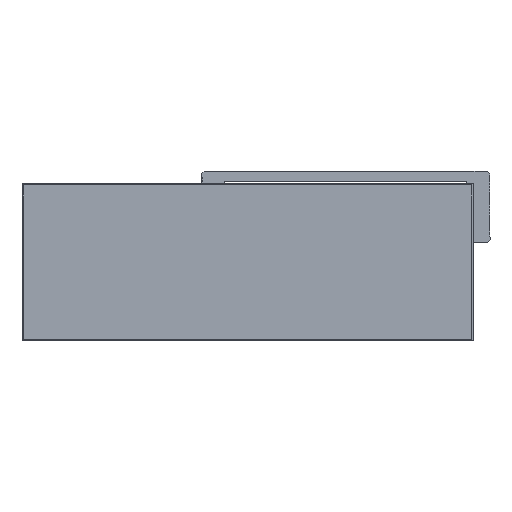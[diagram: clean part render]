
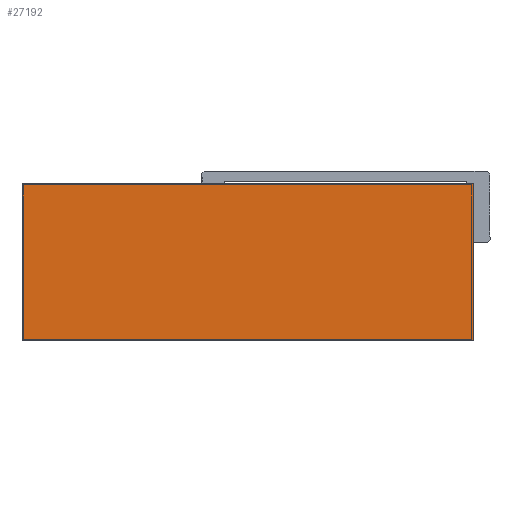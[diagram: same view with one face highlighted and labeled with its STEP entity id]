
A CAD part, top view. The second image highlights one B-rep face of the part: STEP entity #27192.
In plain terms, the highlighted planar face has unit normal (0, 0, 1).
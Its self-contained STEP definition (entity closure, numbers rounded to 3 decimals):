
#706 = DIRECTION ( 'NONE',  ( 0., -1., 0. ) ) ;
#1059 = EDGE_CURVE ( 'NONE', #17397, #12761, #20915, .T. ) ;
#1294 = DIRECTION ( 'NONE',  ( 1., 0., 0. ) ) ;
#1938 = DIRECTION ( 'NONE',  ( 0., 1., 0. ) ) ;
#3695 = ORIENTED_EDGE ( 'NONE', *, *, #25333, .T. ) ;
#3756 = VERTEX_POINT ( 'NONE', #9860 ) ;
#6337 = PLANE ( 'NONE',  #29121 ) ;
#6914 = LINE ( 'NONE', #14746, #25805 ) ;
#7804 = CARTESIAN_POINT ( 'NONE',  ( 0., 0., 70. ) ) ;
#8907 = CARTESIAN_POINT ( 'NONE',  ( 0., 0., 70. ) ) ;
#9647 = CARTESIAN_POINT ( 'NONE',  ( 313., 109., 70. ) ) ;
#9860 = CARTESIAN_POINT ( 'NONE',  ( 0., 109., 70. ) ) ;
#11340 = VERTEX_POINT ( 'NONE', #9647 ) ;
#11521 = DIRECTION ( 'NONE',  ( 0., 0., -1. ) ) ;
#11563 = VECTOR ( 'NONE', #706, 1000. ) ;
#12761 = VERTEX_POINT ( 'NONE', #16917 ) ;
#14661 = CARTESIAN_POINT ( 'NONE',  ( 0., 0., 70. ) ) ;
#14746 = CARTESIAN_POINT ( 'NONE',  ( 313., 0., 70. ) ) ;
#16113 = CARTESIAN_POINT ( 'NONE',  ( 0., 0., 70. ) ) ;
#16543 = DIRECTION ( 'NONE',  ( -1., 0., 0. ) ) ;
#16595 = ORIENTED_EDGE ( 'NONE', *, *, #30555, .T. ) ;
#16917 = CARTESIAN_POINT ( 'NONE',  ( 313., 0., 70. ) ) ;
#17397 = VERTEX_POINT ( 'NONE', #7804 ) ;
#17453 = ORIENTED_EDGE ( 'NONE', *, *, #1059, .T. ) ;
#18007 = EDGE_LOOP ( 'NONE', ( #16595, #17453, #27682, #3695 ) ) ;
#20840 = VECTOR ( 'NONE', #1294, 1000. ) ;
#20915 = LINE ( 'NONE', #14661, #20840 ) ;
#21727 = CARTESIAN_POINT ( 'NONE',  ( 0., 109., 70. ) ) ;
#22486 = FACE_OUTER_BOUND ( 'NONE', #18007, .T. ) ;
#25204 = LINE ( 'NONE', #16113, #11563 ) ;
#25333 = EDGE_CURVE ( 'NONE', #11340, #3756, #26147, .T. ) ;
#25346 = VECTOR ( 'NONE', #16543, 1000. ) ;
#25805 = VECTOR ( 'NONE', #1938, 1000. ) ;
#26147 = LINE ( 'NONE', #21727, #25346 ) ;
#27192 = ADVANCED_FACE ( 'NONE', ( #22486 ), #6337, .F. ) ;
#27682 = ORIENTED_EDGE ( 'NONE', *, *, #28399, .T. ) ;
#28399 = EDGE_CURVE ( 'NONE', #12761, #11340, #6914, .T. ) ;
#29121 = AXIS2_PLACEMENT_3D ( 'NONE', #8907, #11521, #29383 ) ;
#29383 = DIRECTION ( 'NONE',  ( -1., 0., 0. ) ) ;
#30555 = EDGE_CURVE ( 'NONE', #3756, #17397, #25204, .T. ) ;
